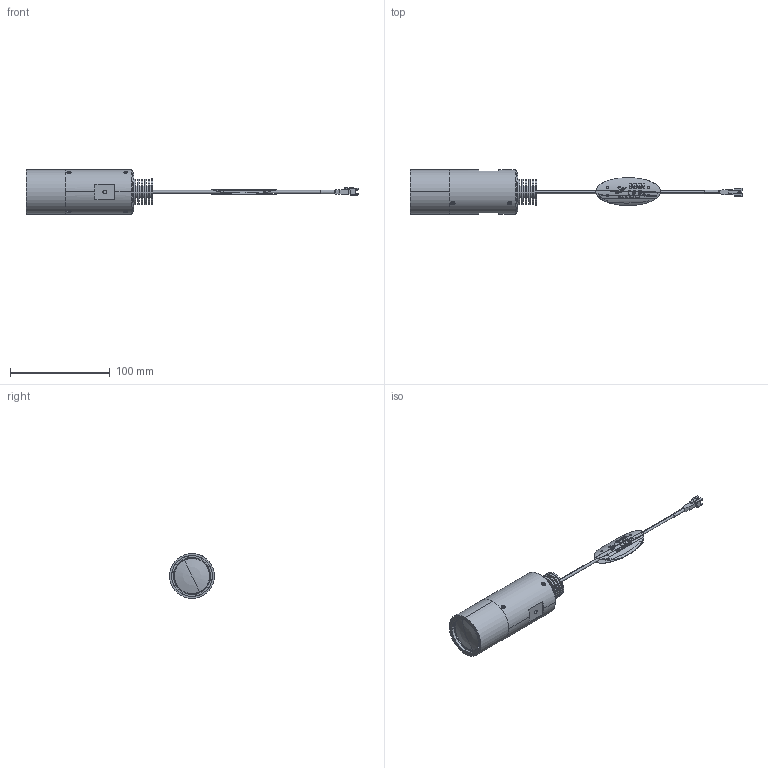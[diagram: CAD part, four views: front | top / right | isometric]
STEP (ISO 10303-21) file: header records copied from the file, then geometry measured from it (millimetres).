
FILE_DESCRIPTION(('STEP AP214'),'1');
FILE_NAME('VCL-30-2P_DRAWING_3D.step','2024-03-04T02:50:48',(' '),(' '),'Spatial InterOp 3D',' ',' ');
FILE_SCHEMA(('AUTOMOTIVE_DESIGN { 1 0 10303 214 1 1 1 1 }'));
Length unit declared in the file: millimetre
Products named in the file (12): TLN-Cable Holder; TLN-LED HOLDER; TLN-FIX1; TLN-Aparture Ring 10; TLN-L01; CABLE 2P; TLN-LEN HOLDER; hexagon socket set screw cone point_jis_JIS B 1177 Cone point M2.5 x 3 --S; O-Ring; TLN-CLOCE LEN; CABEL TAG (VS)
Assembly tree (16 placements, depth 2):
  (unnamed)
    TLN-Cable Holder
    TLN-LED HOLDER
    TLN-FIX1
    TLN-Aparture Ring 10
    TLN-L01
    CABLE 2P
    TLN-LEN HOLDER
    hexagon socket set screw cone point_jis_JIS B 1177 Cone point M2.5 x 3 --S  x6
    O-Ring
    TLN-CLOCE LEN
    CABEL TAG (VS)
Bounding box: 333.47 x 45 x 45 mm (x, y, z)
Volume: 95031.5 mm3; surface area: 62516.9 mm2
Topology: 40 solids, 41 shells, 931 faces, 2613 edges, 1811 vertices
Faces by surface type: cylinder 452, plane 245, cone 186, bspline 37, torus 11
Entity records: 39360 total; most frequent: CARTESIAN_POINT 16631, ORIENTED_EDGE 4006, DIRECTION 3092, EDGE_CURVE 2003, VERTEX_POINT 1436, AXIS2_PLACEMENT_3D 1124, LINE 844, VECTOR 844
